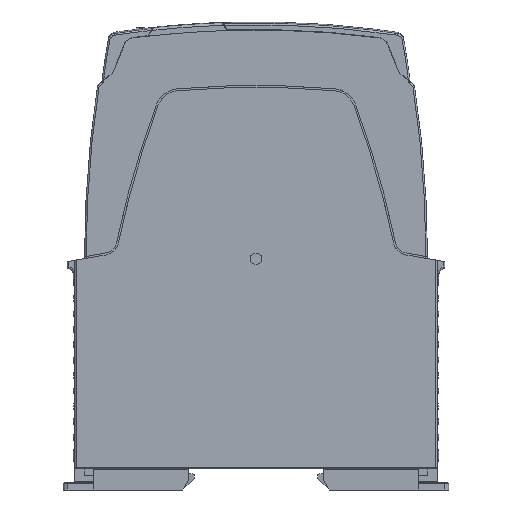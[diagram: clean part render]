
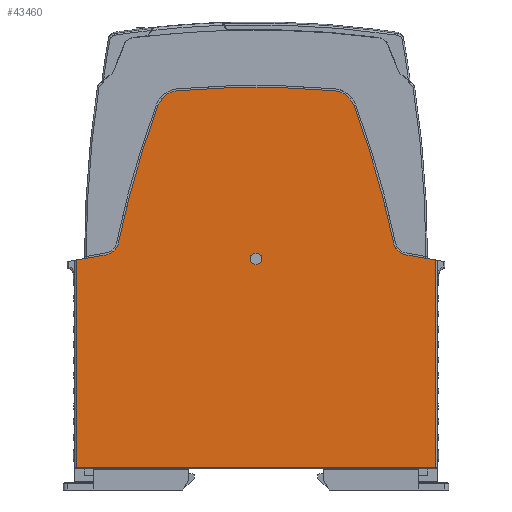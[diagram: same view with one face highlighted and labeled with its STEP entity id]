
A CAD part, left-side view. The second image highlights one B-rep face of the part: STEP entity #43460.
In plain terms, the highlighted planar face has unit normal (-1, 0, 0).
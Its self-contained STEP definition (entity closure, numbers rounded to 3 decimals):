
#8213=CARTESIAN_POINT('',(-8.75,38.912,61.026));
#8225=CARTESIAN_POINT('',(-8.75,46.593,59.672));
#9081=CARTESIAN_POINT('',(-8.75,-46.593,59.672));
#9090=CARTESIAN_POINT('',(-8.75,-38.912,61.026));
#9170=DIRECTION('',(0.,-1.,0.));
#9171=VECTOR('',#9170,93.186);
#9172=CARTESIAN_POINT('',(-8.75,46.593,5.907));
#9173=LINE('',#9172,#9171);
#9177=DIRECTION('',(0.,0.,1.));
#9178=VECTOR('',#9177,53.765);
#9179=CARTESIAN_POINT('',(-8.75,46.593,5.907));
#9180=LINE('',#9179,#9178);
#9184=DIRECTION('',(0.,-0.985,0.174));
#9185=VECTOR('',#9184,7.8);
#9186=CARTESIAN_POINT('',(-8.75,46.593,59.672));
#9187=LINE('',#9186,#9185);
#9191=CARTESIAN_POINT('',(-8.75,-209.,12.9));
#9192=DIRECTION('',(-1.,0.,0.));
#9193=DIRECTION('',(0.,0.938,0.347));
#9194=AXIS2_PLACEMENT_3D('',#9191,#9192,#9193);
#9199=CARTESIAN_POINT('',(-8.75,20.331,103.619));
#9200=CARTESIAN_POINT('',(-8.75,20.711,103.586));
#9201=CARTESIAN_POINT('',(-8.75,21.448,103.451));
#9202=CARTESIAN_POINT('',(-8.75,22.509,103.041));
#9203=CARTESIAN_POINT('',(-8.75,23.471,102.441));
#9204=CARTESIAN_POINT('',(-8.75,24.305,101.672));
#9205=CARTESIAN_POINT('',(-8.75,24.98,100.758));
#9206=CARTESIAN_POINT('',(-8.75,25.306,100.082));
#9207=CARTESIAN_POINT('',(-8.75,25.438,99.725));
#9212=CARTESIAN_POINT('',(-8.75,0.,-130.5));
#9213=DIRECTION('',(-1.,0.,0.));
#9214=DIRECTION('',(0.,-0.087,0.996));
#9215=AXIS2_PLACEMENT_3D('',#9212,#9213,#9214);
#9220=CARTESIAN_POINT('',(-8.75,-25.438,99.725));
#9221=CARTESIAN_POINT('',(-8.75,-25.306,100.082));
#9222=CARTESIAN_POINT('',(-8.75,-24.98,100.758));
#9223=CARTESIAN_POINT('',(-8.75,-24.305,101.672));
#9224=CARTESIAN_POINT('',(-8.75,-23.471,102.441));
#9225=CARTESIAN_POINT('',(-8.75,-22.509,103.041));
#9226=CARTESIAN_POINT('',(-8.75,-21.448,103.451));
#9227=CARTESIAN_POINT('',(-8.75,-20.711,103.586));
#9228=CARTESIAN_POINT('',(-8.75,-20.331,103.619));
#9233=CARTESIAN_POINT('',(-8.75,209.,12.9));
#9234=DIRECTION('',(-1.,0.,0.));
#9235=DIRECTION('',(0.,-0.979,0.205));
#9236=AXIS2_PLACEMENT_3D('',#9233,#9234,#9235);
#9241=DIRECTION('',(0.,-0.985,-0.174));
#9242=VECTOR('',#9241,7.8);
#9243=CARTESIAN_POINT('',(-8.75,-38.912,61.026));
#9244=LINE('',#9243,#9242);
#9248=DIRECTION('',(0.,0.,-1.));
#9249=VECTOR('',#9248,53.765);
#9250=CARTESIAN_POINT('',(-8.75,-46.593,59.672));
#9251=LINE('',#9250,#9249);
#9255=CARTESIAN_POINT('',(-8.75,0.,60.));
#9256=DIRECTION('',(-1.,0.,0.));
#9257=DIRECTION('',(0.,-1.,0.));
#9258=AXIS2_PLACEMENT_3D('',#9255,#9256,#9257);
#9263=CARTESIAN_POINT('',(-8.75,0.,60.));
#9264=DIRECTION('',(-1.,0.,0.));
#9265=DIRECTION('',(0.,1.,0.));
#9266=AXIS2_PLACEMENT_3D('',#9263,#9264,#9265);
#9295=CARTESIAN_POINT('',(-8.75,35.691,64.145));
#9296=CARTESIAN_POINT('',(-8.75,35.746,63.883));
#9297=CARTESIAN_POINT('',(-8.75,35.905,63.381));
#9298=CARTESIAN_POINT('',(-8.75,36.29,62.681));
#9299=CARTESIAN_POINT('',(-8.75,36.805,62.073));
#9300=CARTESIAN_POINT('',(-8.75,37.429,61.578));
#9301=CARTESIAN_POINT('',(-8.75,38.141,61.215));
#9302=CARTESIAN_POINT('',(-8.75,38.648,61.073));
#9303=CARTESIAN_POINT('',(-8.75,38.912,61.026));
#9376=CARTESIAN_POINT('',(-8.75,-38.912,61.026));
#9377=CARTESIAN_POINT('',(-8.75,-38.648,61.073));
#9378=CARTESIAN_POINT('',(-8.75,-38.141,61.215));
#9379=CARTESIAN_POINT('',(-8.75,-37.429,61.578));
#9380=CARTESIAN_POINT('',(-8.75,-36.805,62.073));
#9381=CARTESIAN_POINT('',(-8.75,-36.29,62.681));
#9382=CARTESIAN_POINT('',(-8.75,-35.905,63.381));
#9383=CARTESIAN_POINT('',(-8.75,-35.746,63.883));
#9384=CARTESIAN_POINT('',(-8.75,-35.691,64.145));
#33413=CARTESIAN_POINT('',(-8.75,-1.5,60.));
#33414=CARTESIAN_POINT('',(-8.75,1.5,60.));
#33415=VERTEX_POINT('',#33413);
#33416=VERTEX_POINT('',#33414);
#33913=VERTEX_POINT('',#9199);
#33914=VERTEX_POINT('',#9207);
#33919=VERTEX_POINT('',#9220);
#33920=VERTEX_POINT('',#9228);
#33927=CARTESIAN_POINT('',(-8.75,35.691,64.145));
#33928=VERTEX_POINT('',#33927);
#33929=VERTEX_POINT('',#8213);
#33932=VERTEX_POINT('',#9090);
#33933=CARTESIAN_POINT('',(-8.75,-35.691,64.145));
#33934=VERTEX_POINT('',#33933);
#33983=CARTESIAN_POINT('',(-8.75,46.593,5.907));
#33984=CARTESIAN_POINT('',(-8.75,-46.593,5.907));
#33985=VERTEX_POINT('',#33983);
#33986=VERTEX_POINT('',#33984);
#33987=VERTEX_POINT('',#9081);
#33990=VERTEX_POINT('',#8225);
#43426=CARTESIAN_POINT('',(-8.75,0.,0.));
#43427=DIRECTION('',(1.,0.,0.));
#43428=DIRECTION('',(0.,1.,0.));
#43429=AXIS2_PLACEMENT_3D('',#43426,#43427,#43428);
#43430=PLANE('',#43429);
#43432=ORIENTED_EDGE('',*,*,#43431,.F.);
#43434=ORIENTED_EDGE('',*,*,#43433,.T.);
#43435=ORIENTED_EDGE('',*,*,#42674,.T.);
#43437=ORIENTED_EDGE('',*,*,#43436,.F.);
#43439=ORIENTED_EDGE('',*,*,#43438,.F.);
#43441=ORIENTED_EDGE('',*,*,#43440,.F.);
#43443=ORIENTED_EDGE('',*,*,#43442,.F.);
#43445=ORIENTED_EDGE('',*,*,#43444,.F.);
#43447=ORIENTED_EDGE('',*,*,#43446,.F.);
#43449=ORIENTED_EDGE('',*,*,#43448,.F.);
#43450=ORIENTED_EDGE('',*,*,#43348,.T.);
#43451=ORIENTED_EDGE('',*,*,#43409,.T.);
#43452=EDGE_LOOP('',(#43432,#43434,#43435,#43437,#43439,#43441,#43443,#43445,
#43447,#43449,#43450,#43451));
#43453=FACE_OUTER_BOUND('',#43452,.F.);
#43455=ORIENTED_EDGE('',*,*,#43454,.T.);
#43457=ORIENTED_EDGE('',*,*,#43456,.T.);
#43458=EDGE_LOOP('',(#43455,#43457));
#43459=FACE_BOUND('',#43458,.F.);
#9195=CIRCLE('',#9194,250.);
#9208=B_SPLINE_CURVE_WITH_KNOTS('',3,(#9199,#9200,#9201,#9202,#9203,#9204,#9205,
#9206,#9207),.UNSPECIFIED.,.F.,.F.,(4,1,1,1,1,1,4),(0.,0.167,
0.333,0.5,0.667,0.833,1.),
.UNSPECIFIED.);
#9216=CIRCLE('',#9215,235.);
#9229=B_SPLINE_CURVE_WITH_KNOTS('',3,(#9220,#9221,#9222,#9223,#9224,#9225,#9226,
#9227,#9228),.UNSPECIFIED.,.F.,.F.,(4,1,1,1,1,1,4),(0.,0.167,
0.333,0.5,0.667,0.833,1.),
.UNSPECIFIED.);
#9237=CIRCLE('',#9236,250.);
#9259=CIRCLE('',#9258,1.5);
#9267=CIRCLE('',#9266,1.5);
#9304=B_SPLINE_CURVE_WITH_KNOTS('',3,(#9295,#9296,#9297,#9298,#9299,#9300,#9301,
#9302,#9303),.UNSPECIFIED.,.F.,.F.,(4,1,1,1,1,1,4),(0.,0.167,
0.333,0.5,0.667,0.833,1.),
.UNSPECIFIED.);
#9385=B_SPLINE_CURVE_WITH_KNOTS('',3,(#9376,#9377,#9378,#9379,#9380,#9381,#9382,
#9383,#9384),.UNSPECIFIED.,.F.,.F.,(4,1,1,1,1,1,4),(0.,0.167,
0.333,0.5,0.667,0.833,1.),
.UNSPECIFIED.);
#42674=EDGE_CURVE('',#33990,#33929,#9187,.T.);
#43348=EDGE_CURVE('',#33932,#33987,#9244,.T.);
#43409=EDGE_CURVE('',#33987,#33986,#9251,.T.);
#43431=EDGE_CURVE('',#33985,#33986,#9173,.T.);
#43433=EDGE_CURVE('',#33985,#33990,#9180,.T.);
#43436=EDGE_CURVE('',#33928,#33929,#9304,.T.);
#43438=EDGE_CURVE('',#33914,#33928,#9195,.T.);
#43440=EDGE_CURVE('',#33913,#33914,#9208,.T.);
#43442=EDGE_CURVE('',#33920,#33913,#9216,.T.);
#43444=EDGE_CURVE('',#33919,#33920,#9229,.T.);
#43446=EDGE_CURVE('',#33934,#33919,#9237,.T.);
#43448=EDGE_CURVE('',#33932,#33934,#9385,.T.);
#43454=EDGE_CURVE('',#33415,#33416,#9259,.T.);
#43456=EDGE_CURVE('',#33416,#33415,#9267,.T.);
#43460=ADVANCED_FACE('',(#43453,#43459),#43430,.F.);
